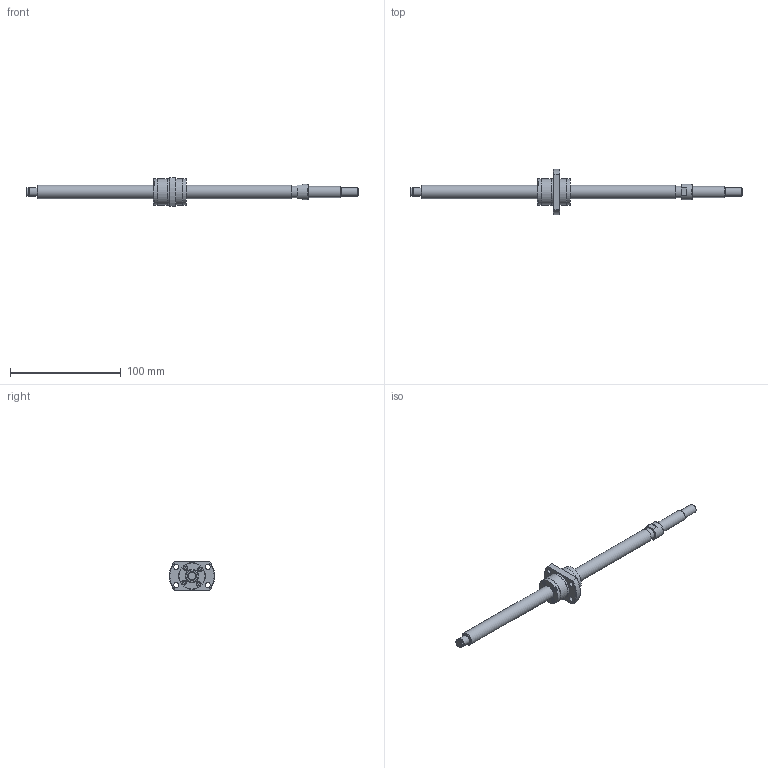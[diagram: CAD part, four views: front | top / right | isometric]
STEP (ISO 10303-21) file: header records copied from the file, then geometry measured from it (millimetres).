
FILE_DESCRIPTION(/* description */ ('STEP AP214'),/* implementation_level */ '2;1');
FILE_NAME(/* name */ 'SG1210-230R300C5B0X(105)',/* time_stamp */ '2026-07-24T15:21:52+02:00',/* author */ ('License CC BY-ND 4.0'),/* organization */ ('CADENAS'),/* preprocessor_version */ 'ST-DEVELOPER v20',/* originating_system */ 'PARTsolutions',/* authorisation */ ' ');
FILE_SCHEMA (('AUTOMOTIVE_DESIGN {1 0 10303 214 3 1 1}'));
Length unit declared in the file: millimetre
Products named in the file (3): SG1210-230R300C5B0X(105); SG1210-230R300C5B_shaft; SG1210 C5_nut
Assembly tree (2 placements, depth 2):
  SG1210-230R300C5B0X(105)
    SG1210-230R300C5B_shaft
    SG1210 C5_nut
Bounding box: 300 x 41 x 26 mm (x, y, z)
Volume: 44316.7 mm3; surface area: 16872.4 mm2
Topology: 2 solids, 2 shells, 106 faces, 238 edges, 156 vertices
Faces by surface type: plane 66, cylinder 28, cone 11, torus 1
Full cylindrical faces by diameter (mm): 3.8 x4, 4.5 x4, 7.6 x1, 8 x3, 10 x1, 10.46 x1, 12 x2, 14 x1, 23.5 x3, 24 x2
Entity records: 2891 total; most frequent: DIRECTION 494, CARTESIAN_POINT 493, ORIENTED_EDGE 412, EDGE_CURVE 206, AXIS2_PLACEMENT_3D 187, EDGE_LOOP 166, FACE_BOUND 166, VERTEX_POINT 154
